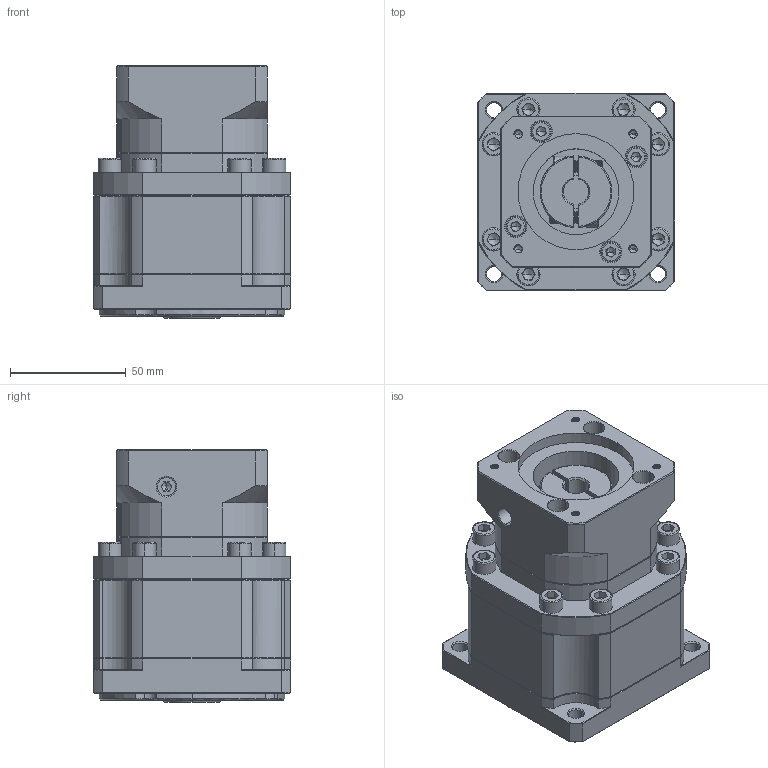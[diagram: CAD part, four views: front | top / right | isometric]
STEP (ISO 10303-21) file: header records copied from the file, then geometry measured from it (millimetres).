
FILE_DESCRIPTION (( 'STEP AP214' ), '1' );
FILE_NAME ('ZB090-K15-L2-P2-11-50-70-M4.step', '2023-08-18T13:39:36', ( '' ), ( '' ), 'SwSTEP 2.0', 'SolidWorks 2016', '' );
FILE_SCHEMA (( 'AUTOMOTIVE_DESIGN' ));
Length unit declared in the file: millimetre
Products named in the file (1): ZB090-K15-L2-P2-11-50-70-M4
Bounding box: 85 x 85 x 109 mm (x, y, z)
Volume: 525939.9 mm3; surface area: 75148.3 mm2
Topology: 6 solids, 6 shells, 2299 faces, 6124 edges, 3920 vertices
Faces by surface type: plane 1178, bspline 416, cylinder 367, cone 316, torus 22
Entity records: 116915 total; most frequent: CARTESIAN_POINT 37528, ORIENTED_EDGE 12160, DIRECTION 9739, EDGE_CURVE 6080, VERTEX_POINT 3920, VECTOR 3881, LINE 3881, AXIS2_PLACEMENT_3D 2929
